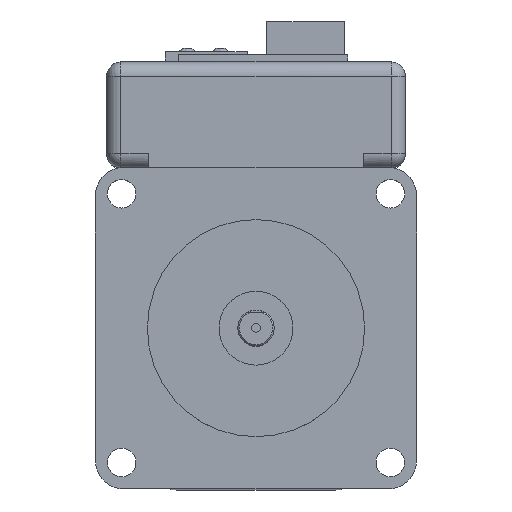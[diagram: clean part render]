
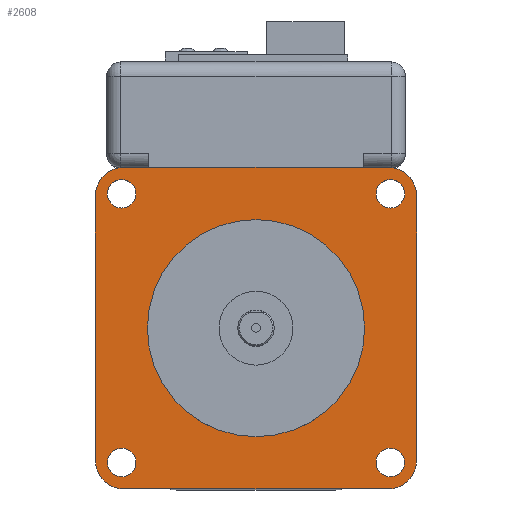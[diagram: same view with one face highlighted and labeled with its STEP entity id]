
A CAD part, top view. The second image highlights one B-rep face of the part: STEP entity #2608.
In plain terms, the highlighted planar face has unit normal (0, 0, 1).
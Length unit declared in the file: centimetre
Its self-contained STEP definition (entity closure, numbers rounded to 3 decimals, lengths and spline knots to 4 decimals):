
#259=CARTESIAN_POINT('',(2.32,-2.32,11.44));
#260=DIRECTION('',(0.,0.,1.));
#261=DIRECTION('',(0.,-1.,0.));
#262=AXIS2_PLACEMENT_3D('',#259,#260,#261);
#264=DIRECTION('',(1.,0.,0.));
#265=VECTOR('',#264,4.64);
#266=CARTESIAN_POINT('',(-2.32,-2.82,11.44));
#267=LINE('',#266,#265);
#268=CARTESIAN_POINT('',(-2.32,-2.32,11.44));
#269=DIRECTION('',(0.,0.,1.));
#270=DIRECTION('',(-1.,0.,0.));
#271=AXIS2_PLACEMENT_3D('',#268,#269,#270);
#273=DIRECTION('',(0.,-1.,0.));
#274=VECTOR('',#273,4.64);
#275=CARTESIAN_POINT('',(-2.82,2.32,11.44));
#276=LINE('',#275,#274);
#277=CARTESIAN_POINT('',(-2.32,2.32,11.44));
#278=DIRECTION('',(0.,0.,1.));
#279=DIRECTION('',(0.,1.,0.));
#280=AXIS2_PLACEMENT_3D('',#277,#278,#279);
#282=DIRECTION('',(-1.,0.,0.));
#283=VECTOR('',#282,4.64);
#284=CARTESIAN_POINT('',(2.32,2.82,11.44));
#285=LINE('',#284,#283);
#286=CARTESIAN_POINT('',(2.32,2.32,11.44));
#287=DIRECTION('',(0.,0.,1.));
#288=DIRECTION('',(1.,0.,0.));
#289=AXIS2_PLACEMENT_3D('',#286,#287,#288);
#291=DIRECTION('',(0.,1.,0.));
#292=VECTOR('',#291,4.64);
#293=CARTESIAN_POINT('',(2.82,-2.32,11.44));
#294=LINE('',#293,#292);
#295=CARTESIAN_POINT('',(0.,0.,11.44));
#296=DIRECTION('',(0.,0.,-1.));
#297=DIRECTION('',(1.,0.,0.));
#298=AXIS2_PLACEMENT_3D('',#295,#296,#297);
#300=CARTESIAN_POINT('',(0.,0.,11.44));
#301=DIRECTION('',(0.,0.,-1.));
#302=DIRECTION('',(-1.,0.,0.));
#303=AXIS2_PLACEMENT_3D('',#300,#301,#302);
#305=CARTESIAN_POINT('',(2.357,2.357,11.44));
#306=DIRECTION('',(0.,0.,-1.));
#307=DIRECTION('',(-1.,0.,0.));
#308=AXIS2_PLACEMENT_3D('',#305,#306,#307);
#310=CARTESIAN_POINT('',(2.357,2.357,11.44));
#311=DIRECTION('',(0.,0.,-1.));
#312=DIRECTION('',(1.,0.,0.));
#313=AXIS2_PLACEMENT_3D('',#310,#311,#312);
#315=CARTESIAN_POINT('',(-2.357,-2.357,11.44));
#316=DIRECTION('',(0.,0.,-1.));
#317=DIRECTION('',(-1.,0.,0.));
#318=AXIS2_PLACEMENT_3D('',#315,#316,#317);
#320=CARTESIAN_POINT('',(-2.357,-2.357,11.44));
#321=DIRECTION('',(0.,0.,-1.));
#322=DIRECTION('',(1.,0.,0.));
#323=AXIS2_PLACEMENT_3D('',#320,#321,#322);
#325=CARTESIAN_POINT('',(2.357,-2.357,11.44));
#326=DIRECTION('',(0.,0.,-1.));
#327=DIRECTION('',(-1.,0.,0.));
#328=AXIS2_PLACEMENT_3D('',#325,#326,#327);
#330=CARTESIAN_POINT('',(2.357,-2.357,11.44));
#331=DIRECTION('',(0.,0.,-1.));
#332=DIRECTION('',(1.,0.,0.));
#333=AXIS2_PLACEMENT_3D('',#330,#331,#332);
#335=CARTESIAN_POINT('',(-2.357,2.357,11.44));
#336=DIRECTION('',(0.,0.,-1.));
#337=DIRECTION('',(-1.,0.,0.));
#338=AXIS2_PLACEMENT_3D('',#335,#336,#337);
#340=CARTESIAN_POINT('',(-2.357,2.357,11.44));
#341=DIRECTION('',(0.,0.,-1.));
#342=DIRECTION('',(1.,0.,0.));
#343=AXIS2_PLACEMENT_3D('',#340,#341,#342);
#1696=CARTESIAN_POINT('',(-2.32,2.82,11.44));
#1697=VERTEX_POINT('',#1696);
#1698=CARTESIAN_POINT('',(2.32,2.82,11.44));
#1699=VERTEX_POINT('',#1698);
#1849=CARTESIAN_POINT('',(2.32,-2.82,11.44));
#1850=CARTESIAN_POINT('',(2.82,-2.32,11.44));
#1851=VERTEX_POINT('',#1849);
#1852=VERTEX_POINT('',#1850);
#1859=CARTESIAN_POINT('',(-2.32,-2.82,11.44));
#1860=VERTEX_POINT('',#1859);
#1865=CARTESIAN_POINT('',(2.82,2.32,11.44));
#1866=VERTEX_POINT('',#1865);
#1867=CARTESIAN_POINT('',(-2.82,2.32,11.44));
#1868=VERTEX_POINT('',#1867);
#1869=CARTESIAN_POINT('',(-2.82,-2.32,11.44));
#1870=VERTEX_POINT('',#1869);
#2063=CARTESIAN_POINT('',(-1.905,0.,11.44));
#2065=VERTEX_POINT('',#2063);
#2067=CARTESIAN_POINT('',(1.905,0.,11.44));
#2069=VERTEX_POINT('',#2067);
#2072=CARTESIAN_POINT('',(-2.607,2.357,11.44));
#2074=VERTEX_POINT('',#2072);
#2076=CARTESIAN_POINT('',(-2.107,2.357,11.44));
#2078=VERTEX_POINT('',#2076);
#2080=CARTESIAN_POINT('',(2.107,-2.357,11.44));
#2082=VERTEX_POINT('',#2080);
#2084=CARTESIAN_POINT('',(2.607,-2.357,11.44));
#2086=VERTEX_POINT('',#2084);
#2088=CARTESIAN_POINT('',(-2.607,-2.357,11.44));
#2090=VERTEX_POINT('',#2088);
#2092=CARTESIAN_POINT('',(-2.107,-2.357,11.44));
#2094=VERTEX_POINT('',#2092);
#2096=CARTESIAN_POINT('',(2.107,2.357,11.44));
#2098=VERTEX_POINT('',#2096);
#2100=CARTESIAN_POINT('',(2.607,2.357,11.44));
#2102=VERTEX_POINT('',#2100);
#2557=CARTESIAN_POINT('',(0.,0.,11.44));
#2558=DIRECTION('',(0.,0.,1.));
#2559=DIRECTION('',(1.,0.,0.));
#2560=AXIS2_PLACEMENT_3D('',#2557,#2558,#2559);
#2561=PLANE('',#2560);
#2563=ORIENTED_EDGE('',*,*,#2562,.F.);
#2565=ORIENTED_EDGE('',*,*,#2564,.F.);
#2567=ORIENTED_EDGE('',*,*,#2566,.F.);
#2569=ORIENTED_EDGE('',*,*,#2568,.F.);
#2571=ORIENTED_EDGE('',*,*,#2570,.F.);
#2572=ORIENTED_EDGE('',*,*,#2505,.F.);
#2573=ORIENTED_EDGE('',*,*,#2548,.F.);
#2575=ORIENTED_EDGE('',*,*,#2574,.F.);
#2576=EDGE_LOOP('',(#2563,#2565,#2567,#2569,#2571,#2572,#2573,#2575));
#2577=FACE_OUTER_BOUND('',#2576,.F.);
#2579=ORIENTED_EDGE('',*,*,#2578,.F.);
#2581=ORIENTED_EDGE('',*,*,#2580,.F.);
#2582=EDGE_LOOP('',(#2579,#2581));
#2583=FACE_BOUND('',#2582,.F.);
#2585=ORIENTED_EDGE('',*,*,#2584,.F.);
#2587=ORIENTED_EDGE('',*,*,#2586,.F.);
#2588=EDGE_LOOP('',(#2585,#2587));
#2589=FACE_BOUND('',#2588,.F.);
#2591=ORIENTED_EDGE('',*,*,#2590,.F.);
#2593=ORIENTED_EDGE('',*,*,#2592,.F.);
#2594=EDGE_LOOP('',(#2591,#2593));
#2595=FACE_BOUND('',#2594,.F.);
#2597=ORIENTED_EDGE('',*,*,#2596,.F.);
#2599=ORIENTED_EDGE('',*,*,#2598,.F.);
#2600=EDGE_LOOP('',(#2597,#2599));
#2601=FACE_BOUND('',#2600,.F.);
#2603=ORIENTED_EDGE('',*,*,#2602,.F.);
#2605=ORIENTED_EDGE('',*,*,#2604,.F.);
#2606=EDGE_LOOP('',(#2603,#2605));
#2607=FACE_BOUND('',#2606,.F.);
#2608=ADVANCED_FACE('',(#2577,#2583,#2589,#2595,#2601,#2607),#2561,.T.);
#263=CIRCLE('',#262,0.5);
#272=CIRCLE('',#271,0.5);
#281=CIRCLE('',#280,0.5);
#290=CIRCLE('',#289,0.5);
#299=CIRCLE('',#298,1.905);
#304=CIRCLE('',#303,1.905);
#309=CIRCLE('',#308,0.25);
#314=CIRCLE('',#313,0.25);
#319=CIRCLE('',#318,0.25);
#324=CIRCLE('',#323,0.25);
#329=CIRCLE('',#328,0.25);
#334=CIRCLE('',#333,0.25);
#339=CIRCLE('',#338,0.25);
#344=CIRCLE('',#343,0.25);
#2505=EDGE_CURVE('',#1699,#1697,#285,.T.);
#2548=EDGE_CURVE('',#1866,#1699,#290,.T.);
#2562=EDGE_CURVE('',#1851,#1852,#263,.T.);
#2564=EDGE_CURVE('',#1860,#1851,#267,.T.);
#2566=EDGE_CURVE('',#1870,#1860,#272,.T.);
#2568=EDGE_CURVE('',#1868,#1870,#276,.T.);
#2570=EDGE_CURVE('',#1697,#1868,#281,.T.);
#2574=EDGE_CURVE('',#1852,#1866,#294,.T.);
#2578=EDGE_CURVE('',#2069,#2065,#299,.T.);
#2580=EDGE_CURVE('',#2065,#2069,#304,.T.);
#2584=EDGE_CURVE('',#2098,#2102,#309,.T.);
#2586=EDGE_CURVE('',#2102,#2098,#314,.T.);
#2590=EDGE_CURVE('',#2090,#2094,#319,.T.);
#2592=EDGE_CURVE('',#2094,#2090,#324,.T.);
#2596=EDGE_CURVE('',#2082,#2086,#329,.T.);
#2598=EDGE_CURVE('',#2086,#2082,#334,.T.);
#2602=EDGE_CURVE('',#2074,#2078,#339,.T.);
#2604=EDGE_CURVE('',#2078,#2074,#344,.T.);
